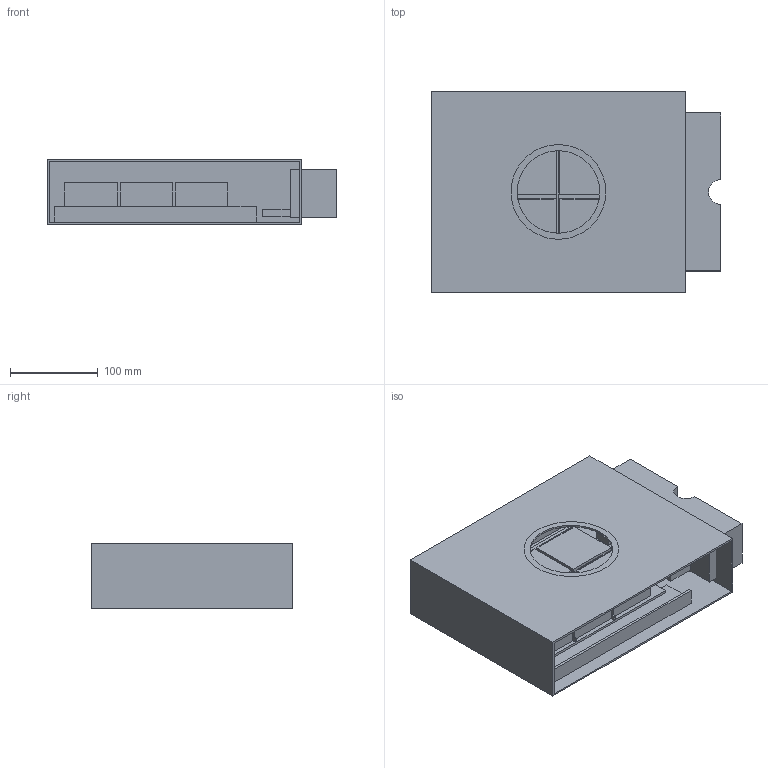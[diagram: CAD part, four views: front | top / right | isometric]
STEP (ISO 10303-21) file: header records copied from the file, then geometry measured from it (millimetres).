
FILE_DESCRIPTION(('FreeCAD Model'),'2;1');
FILE_NAME('Open CASCADE Shape Model','2026-10-01T18:12:19',('Author'),( ''),'Open CASCADE STEP processor 7.8','FreeCAD','Unknown');
FILE_SCHEMA(('AUTOMOTIVE_DESIGN { 1 0 10303 214 1 1 1 1 }'));
Length unit declared in the file: millimetre
Products named in the file (14): Jiewei_unlocked; outer_sleeve; wei_drawer; lock_key_left; lock_key_right; zhao_tray; inner_liner; moon_disc; sku_proxy_01; sku_proxy_02; sku_proxy_03; sku_proxy_04; sku_proxy_05; sku_proxy_06
Assembly tree (13 placements, depth 2):
  Jiewei_unlocked
    outer_sleeve
    wei_drawer
    lock_key_left
    lock_key_right
    zhao_tray
    inner_liner
    moon_disc
    sku_proxy_01
    sku_proxy_02
    sku_proxy_03
    sku_proxy_04
    sku_proxy_05
    sku_proxy_06
Bounding box: 330 x 230 x 75 mm (x, y, z)
Volume: 2066794.1 mm3; surface area: 668669.5 mm2
Topology: 13 solids, 13 shells, 146 faces, 357 edges, 238 vertices
Faces by surface type: plane 142, cylinder 4
Full cylindrical faces by diameter (mm): 94 x1, 108 x2
Entity records: 4437 total; most frequent: CARTESIAN_POINT 755, ORIENTED_EDGE 714, DIRECTION 685, EDGE_CURVE 357, LINE 349, VECTOR 349, VERTEX_POINT 238, AXIS2_PLACEMENT_3D 168
